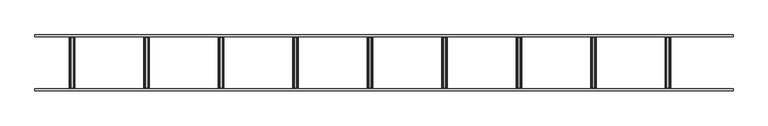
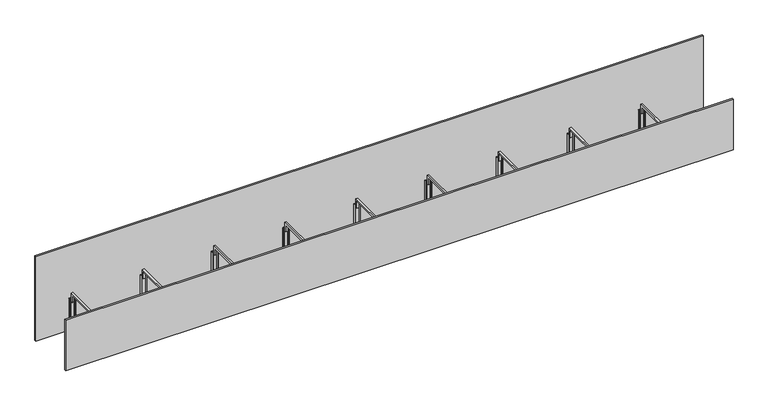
"""IFC4 building model written with IfcOpenShell, lengths in millimetres: proxy geometry, Betobeam ABE : -."""

from ifc_helpers import new_model, si_unit, frame, origin, origin_with_axes, place, context, project, spatial, polyline, outline, extrude, faceted_brep, source, transform, mapped, element, save


def generic_models_a81ae250(model_context):
    return source(origin(), model_context, "Body", "SolidModel", [
        extrude(outline(polyline([(285.0, 220.0), (285.0, 170.0), (275.0, 170.0), (275.0, 210.0), (25.0, 210.0), (25.0, 170.0), (15.0, 170.0), (15.0, 220.0), (285.0, 220.0)])), frame((3395.0, 0.0, 0.0), z_axis=(1.0, 0.0, 0.0), x_axis=(0.0, 1.0, 0.0)), (0.0, 0.0, 1.0), 10.0),
        faceted_brep([(3385.0, 290.0, 190.0), (3385.0, 275.0, 190.0), (3387.0, 275.0, 190.0), (3387.0, 288.0, 190.0), (3413.0, 288.0, 190.0), (3413.0, 275.0, 190.0), (3415.0, 275.0, 190.0), (3415.0, 290.0, 190.0), (3385.0, 290.0, 0.0), (3385.0, 10.0, 0.0), (3385.0, 10.0, 190.0), (3385.0, 25.0, 190.0), (3385.0, 25.0, 15.0), (3385.0, 275.0, 15.0), (3387.0, 275.0, 15.0), (3387.0, 25.0, 15.0), (3387.0, 25.0, 190.0), (3387.0, 12.0, 190.0), (3387.0, 12.0, 2.0), (3387.0, 288.0, 2.0), (3413.0, 288.0, 2.0), (3413.0, 12.0, 2.0), (3413.0, 12.0, 190.0), (3413.0, 25.0, 190.0), (3413.0, 25.0, 15.0), (3413.0, 275.0, 15.0), (3415.0, 275.0, 15.0), (3415.0, 25.0, 15.0), (3415.0, 25.0, 190.0), (3415.0, 10.0, 190.0), (3415.0, 10.0, 0.0), (3415.0, 290.0, 0.0)], [[[0, 1, 2, 3, 4, 5, 6, 7]], [[1, 0, 8, 9, 10, 11, 12, 13]], [[2, 1, 13, 14]], [[3, 2, 14, 15, 16, 17, 18, 19]], [[4, 3, 19, 20]], [[5, 4, 20, 21, 22, 23, 24, 25]], [[6, 5, 25, 26]], [[7, 6, 26, 27, 28, 29, 30, 31]], [[0, 7, 31, 8]], [[14, 13, 12, 15]], [[20, 19, 18, 21]], [[26, 25, 24, 27]], [[8, 31, 30, 9]], [[10, 29, 28, 23, 22, 17, 16, 11]], [[15, 12, 11, 16]], [[21, 18, 17, 22]], [[27, 24, 23, 28]], [[9, 30, 29, 10]]]),
        extrude(outline(polyline([(285.0, 220.0), (285.0, 170.0), (275.0, 170.0), (275.0, 210.0), (25.0, 210.0), (25.0, 170.0), (15.0, 170.0), (15.0, 220.0), (285.0, 220.0)])), frame((2995.0, 0.0, 0.0), z_axis=(1.0, 0.0, 0.0), x_axis=(0.0, 1.0, 0.0)), (0.0, 0.0, 1.0), 10.0),
        faceted_brep([(2985.0, 290.0, 190.0), (2985.0, 275.0, 190.0), (2987.0, 275.0, 190.0), (2987.0, 288.0, 190.0), (3013.0, 288.0, 190.0), (3013.0, 275.0, 190.0), (3015.0, 275.0, 190.0), (3015.0, 290.0, 190.0), (2985.0, 290.0, 0.0), (2985.0, 10.0, 0.0), (2985.0, 10.0, 190.0), (2985.0, 25.0, 190.0), (2985.0, 25.0, 15.0), (2985.0, 275.0, 15.0), (2987.0, 275.0, 15.0), (2987.0, 25.0, 15.0), (2987.0, 25.0, 190.0), (2987.0, 12.0, 190.0), (2987.0, 12.0, 2.0), (2987.0, 288.0, 2.0), (3013.0, 288.0, 2.0), (3013.0, 12.0, 2.0), (3013.0, 12.0, 190.0), (3013.0, 25.0, 190.0), (3013.0, 25.0, 15.0), (3013.0, 275.0, 15.0), (3015.0, 275.0, 15.0), (3015.0, 25.0, 15.0), (3015.0, 25.0, 190.0), (3015.0, 10.0, 190.0), (3015.0, 10.0, 0.0), (3015.0, 290.0, 0.0)], [[[0, 1, 2, 3, 4, 5, 6, 7]], [[1, 0, 8, 9, 10, 11, 12, 13]], [[2, 1, 13, 14]], [[3, 2, 14, 15, 16, 17, 18, 19]], [[4, 3, 19, 20]], [[5, 4, 20, 21, 22, 23, 24, 25]], [[6, 5, 25, 26]], [[7, 6, 26, 27, 28, 29, 30, 31]], [[0, 7, 31, 8]], [[14, 13, 12, 15]], [[20, 19, 18, 21]], [[26, 25, 24, 27]], [[8, 31, 30, 9]], [[10, 29, 28, 23, 22, 17, 16, 11]], [[15, 12, 11, 16]], [[21, 18, 17, 22]], [[27, 24, 23, 28]], [[9, 30, 29, 10]]]),
        extrude(outline(polyline([(285.0, 220.0), (285.0, 170.0), (275.0, 170.0), (275.0, 210.0), (25.0, 210.0), (25.0, 170.0), (15.0, 170.0), (15.0, 220.0), (285.0, 220.0)])), frame((2595.0, 0.0, 0.0), z_axis=(1.0, 0.0, 0.0), x_axis=(0.0, 1.0, 0.0)), (0.0, 0.0, 1.0), 10.0),
        faceted_brep([(2585.0, 290.0, 190.0), (2585.0, 275.0, 190.0), (2587.0, 275.0, 190.0), (2587.0, 288.0, 190.0), (2613.0, 288.0, 190.0), (2613.0, 275.0, 190.0), (2615.0, 275.0, 190.0), (2615.0, 290.0, 190.0), (2585.0, 290.0, 0.0), (2585.0, 10.0, 0.0), (2585.0, 10.0, 190.0), (2585.0, 25.0, 190.0), (2585.0, 25.0, 15.0), (2585.0, 275.0, 15.0), (2587.0, 275.0, 15.0), (2587.0, 25.0, 15.0), (2587.0, 25.0, 190.0), (2587.0, 12.0, 190.0), (2587.0, 12.0, 2.0), (2587.0, 288.0, 2.0), (2613.0, 288.0, 2.0), (2613.0, 12.0, 2.0), (2613.0, 12.0, 190.0), (2613.0, 25.0, 190.0), (2613.0, 25.0, 15.0), (2613.0, 275.0, 15.0), (2615.0, 275.0, 15.0), (2615.0, 25.0, 15.0), (2615.0, 25.0, 190.0), (2615.0, 10.0, 190.0), (2615.0, 10.0, 0.0), (2615.0, 290.0, 0.0)], [[[0, 1, 2, 3, 4, 5, 6, 7]], [[1, 0, 8, 9, 10, 11, 12, 13]], [[2, 1, 13, 14]], [[3, 2, 14, 15, 16, 17, 18, 19]], [[4, 3, 19, 20]], [[5, 4, 20, 21, 22, 23, 24, 25]], [[6, 5, 25, 26]], [[7, 6, 26, 27, 28, 29, 30, 31]], [[0, 7, 31, 8]], [[14, 13, 12, 15]], [[20, 19, 18, 21]], [[26, 25, 24, 27]], [[8, 31, 30, 9]], [[10, 29, 28, 23, 22, 17, 16, 11]], [[15, 12, 11, 16]], [[21, 18, 17, 22]], [[27, 24, 23, 28]], [[9, 30, 29, 10]]]),
        extrude(outline(polyline([(285.0, 220.0), (285.0, 170.0), (275.0, 170.0), (275.0, 210.0), (25.0, 210.0), (25.0, 170.0), (15.0, 170.0), (15.0, 220.0), (285.0, 220.0)])), frame((2195.0, 0.0, 0.0), z_axis=(1.0, 0.0, 0.0), x_axis=(0.0, 1.0, 0.0)), (0.0, 0.0, 1.0), 10.0),
        faceted_brep([(2185.0, 290.0, 190.0), (2185.0, 275.0, 190.0), (2187.0, 275.0, 190.0), (2187.0, 288.0, 190.0), (2213.0, 288.0, 190.0), (2213.0, 275.0, 190.0), (2215.0, 275.0, 190.0), (2215.0, 290.0, 190.0), (2185.0, 290.0, 0.0), (2185.0, 10.0, 0.0), (2185.0, 10.0, 190.0), (2185.0, 25.0, 190.0), (2185.0, 25.0, 15.0), (2185.0, 275.0, 15.0), (2187.0, 275.0, 15.0), (2187.0, 25.0, 15.0), (2187.0, 25.0, 190.0), (2187.0, 12.0, 190.0), (2187.0, 12.0, 2.0), (2187.0, 288.0, 2.0), (2213.0, 288.0, 2.0), (2213.0, 12.0, 2.0), (2213.0, 12.0, 190.0), (2213.0, 25.0, 190.0), (2213.0, 25.0, 15.0), (2213.0, 275.0, 15.0), (2215.0, 275.0, 15.0), (2215.0, 25.0, 15.0), (2215.0, 25.0, 190.0), (2215.0, 10.0, 190.0), (2215.0, 10.0, 0.0), (2215.0, 290.0, 0.0)], [[[0, 1, 2, 3, 4, 5, 6, 7]], [[1, 0, 8, 9, 10, 11, 12, 13]], [[2, 1, 13, 14]], [[3, 2, 14, 15, 16, 17, 18, 19]], [[4, 3, 19, 20]], [[5, 4, 20, 21, 22, 23, 24, 25]], [[6, 5, 25, 26]], [[7, 6, 26, 27, 28, 29, 30, 31]], [[0, 7, 31, 8]], [[14, 13, 12, 15]], [[20, 19, 18, 21]], [[26, 25, 24, 27]], [[8, 31, 30, 9]], [[10, 29, 28, 23, 22, 17, 16, 11]], [[15, 12, 11, 16]], [[21, 18, 17, 22]], [[27, 24, 23, 28]], [[9, 30, 29, 10]]]),
        extrude(outline(polyline([(285.0, 220.0), (285.0, 170.0), (275.0, 170.0), (275.0, 210.0), (25.0, 210.0), (25.0, 170.0), (15.0, 170.0), (15.0, 220.0), (285.0, 220.0)])), frame((1795.0, 0.0, 0.0), z_axis=(1.0, 0.0, 0.0), x_axis=(0.0, 1.0, 0.0)), (0.0, 0.0, 1.0), 10.0),
        faceted_brep([(1785.0, 290.0, 190.0), (1785.0, 275.0, 190.0), (1787.0, 275.0, 190.0), (1787.0, 288.0, 190.0), (1813.0, 288.0, 190.0), (1813.0, 275.0, 190.0), (1815.0, 275.0, 190.0), (1815.0, 290.0, 190.0), (1785.0, 290.0, 0.0), (1785.0, 10.0, 0.0), (1785.0, 10.0, 190.0), (1785.0, 25.0, 190.0), (1785.0, 25.0, 15.0), (1785.0, 275.0, 15.0), (1787.0, 275.0, 15.0), (1787.0, 25.0, 15.0), (1787.0, 25.0, 190.0), (1787.0, 12.0, 190.0), (1787.0, 12.0, 2.0), (1787.0, 288.0, 2.0), (1813.0, 288.0, 2.0), (1813.0, 12.0, 2.0), (1813.0, 12.0, 190.0), (1813.0, 25.0, 190.0), (1813.0, 25.0, 15.0), (1813.0, 275.0, 15.0), (1815.0, 275.0, 15.0), (1815.0, 25.0, 15.0), (1815.0, 25.0, 190.0), (1815.0, 10.0, 190.0), (1815.0, 10.0, 0.0), (1815.0, 290.0, 0.0)], [[[0, 1, 2, 3, 4, 5, 6, 7]], [[1, 0, 8, 9, 10, 11, 12, 13]], [[2, 1, 13, 14]], [[3, 2, 14, 15, 16, 17, 18, 19]], [[4, 3, 19, 20]], [[5, 4, 20, 21, 22, 23, 24, 25]], [[6, 5, 25, 26]], [[7, 6, 26, 27, 28, 29, 30, 31]], [[0, 7, 31, 8]], [[14, 13, 12, 15]], [[20, 19, 18, 21]], [[26, 25, 24, 27]], [[8, 31, 30, 9]], [[10, 29, 28, 23, 22, 17, 16, 11]], [[15, 12, 11, 16]], [[21, 18, 17, 22]], [[27, 24, 23, 28]], [[9, 30, 29, 10]]]),
        extrude(outline(polyline([(285.0, 220.0), (285.0, 170.0), (275.0, 170.0), (275.0, 210.0), (25.0, 210.0), (25.0, 170.0), (15.0, 170.0), (15.0, 220.0), (285.0, 220.0)])), frame((1395.0, 0.0, 0.0), z_axis=(1.0, 0.0, 0.0), x_axis=(0.0, 1.0, 0.0)), (0.0, 0.0, 1.0), 10.0),
        faceted_brep([(1385.0, 290.0, 190.0), (1385.0, 275.0, 190.0), (1387.0, 275.0, 190.0), (1387.0, 288.0, 190.0), (1413.0, 288.0, 190.0), (1413.0, 275.0, 190.0), (1415.0, 275.0, 190.0), (1415.0, 290.0, 190.0), (1385.0, 290.0, 0.0), (1385.0, 10.0, 0.0), (1385.0, 10.0, 190.0), (1385.0, 25.0, 190.0), (1385.0, 25.0, 15.0), (1385.0, 275.0, 15.0), (1387.0, 275.0, 15.0), (1387.0, 25.0, 15.0), (1387.0, 25.0, 190.0), (1387.0, 12.0, 190.0), (1387.0, 12.0, 2.0), (1387.0, 288.0, 2.0), (1413.0, 288.0, 2.0), (1413.0, 12.0, 2.0), (1413.0, 12.0, 190.0), (1413.0, 25.0, 190.0), (1413.0, 25.0, 15.0), (1413.0, 275.0, 15.0), (1415.0, 275.0, 15.0), (1415.0, 25.0, 15.0), (1415.0, 25.0, 190.0), (1415.0, 10.0, 190.0), (1415.0, 10.0, 0.0), (1415.0, 290.0, 0.0)], [[[0, 1, 2, 3, 4, 5, 6, 7]], [[1, 0, 8, 9, 10, 11, 12, 13]], [[2, 1, 13, 14]], [[3, 2, 14, 15, 16, 17, 18, 19]], [[4, 3, 19, 20]], [[5, 4, 20, 21, 22, 23, 24, 25]], [[6, 5, 25, 26]], [[7, 6, 26, 27, 28, 29, 30, 31]], [[0, 7, 31, 8]], [[14, 13, 12, 15]], [[20, 19, 18, 21]], [[26, 25, 24, 27]], [[8, 31, 30, 9]], [[10, 29, 28, 23, 22, 17, 16, 11]], [[15, 12, 11, 16]], [[21, 18, 17, 22]], [[27, 24, 23, 28]], [[9, 30, 29, 10]]]),
        extrude(outline(polyline([(285.0, 220.0), (285.0, 170.0), (275.0, 170.0), (275.0, 210.0), (25.0, 210.0), (25.0, 170.0), (15.0, 170.0), (15.0, 220.0), (285.0, 220.0)])), frame((995.0, 0.0, 0.0), z_axis=(1.0, 0.0, 0.0), x_axis=(0.0, 1.0, 0.0)), (0.0, 0.0, 1.0), 10.0),
        faceted_brep([(985.0, 290.0, 190.0), (985.0, 275.0, 190.0), (987.0, 275.0, 190.0), (987.0, 288.0, 190.0), (1013.0, 288.0, 190.0), (1013.0, 275.0, 190.0), (1015.0, 275.0, 190.0), (1015.0, 290.0, 190.0), (985.0, 290.0, 0.0), (985.0, 10.0, 0.0), (985.0, 10.0, 190.0), (985.0, 25.0, 190.0), (985.0, 25.0, 15.0), (985.0, 275.0, 15.0), (987.0, 275.0, 15.0), (987.0, 25.0, 15.0), (987.0, 25.0, 190.0), (987.0, 12.0, 190.0), (987.0, 12.0, 2.0), (987.0, 288.0, 2.0), (1013.0, 288.0, 2.0), (1013.0, 12.0, 2.0), (1013.0, 12.0, 190.0), (1013.0, 25.0, 190.0), (1013.0, 25.0, 15.0), (1013.0, 275.0, 15.0), (1015.0, 275.0, 15.0), (1015.0, 25.0, 15.0), (1015.0, 25.0, 190.0), (1015.0, 10.0, 190.0), (1015.0, 10.0, 0.0), (1015.0, 290.0, 0.0)], [[[0, 1, 2, 3, 4, 5, 6, 7]], [[1, 0, 8, 9, 10, 11, 12, 13]], [[2, 1, 13, 14]], [[3, 2, 14, 15, 16, 17, 18, 19]], [[4, 3, 19, 20]], [[5, 4, 20, 21, 22, 23, 24, 25]], [[6, 5, 25, 26]], [[7, 6, 26, 27, 28, 29, 30, 31]], [[0, 7, 31, 8]], [[14, 13, 12, 15]], [[20, 19, 18, 21]], [[26, 25, 24, 27]], [[8, 31, 30, 9]], [[10, 29, 28, 23, 22, 17, 16, 11]], [[15, 12, 11, 16]], [[21, 18, 17, 22]], [[27, 24, 23, 28]], [[9, 30, 29, 10]]]),
        extrude(outline(polyline([(285.0, 220.0), (285.0, 170.0), (275.0, 170.0), (275.0, 210.0), (25.0, 210.0), (25.0, 170.0), (15.0, 170.0), (15.0, 220.0), (285.0, 220.0)])), frame((595.0, 0.0, 0.0), z_axis=(1.0, 0.0, 0.0), x_axis=(0.0, 1.0, 0.0)), (0.0, 0.0, 1.0), 10.0),
        faceted_brep([(585.0, 290.0, 190.0), (585.0, 275.0, 190.0), (587.0, 275.0, 190.0), (587.0, 288.0, 190.0), (613.0, 288.0, 190.0), (613.0, 275.0, 190.0), (615.0, 275.0, 190.0), (615.0, 290.0, 190.0), (585.0, 290.0, 0.0), (585.0, 10.0, 0.0), (585.0, 10.0, 190.0), (585.0, 25.0, 190.0), (585.0, 25.0, 15.0), (585.0, 275.0, 15.0), (587.0, 275.0, 15.0), (587.0, 25.0, 15.0), (587.0, 25.0, 190.0), (587.0, 12.0, 190.0), (587.0, 12.0, 2.0), (587.0, 288.0, 2.0), (613.0, 288.0, 2.0), (613.0, 12.0, 2.0), (613.0, 12.0, 190.0), (613.0, 25.0, 190.0), (613.0, 25.0, 15.0), (613.0, 275.0, 15.0), (615.0, 275.0, 15.0), (615.0, 25.0, 15.0), (615.0, 25.0, 190.0), (615.0, 10.0, 190.0), (615.0, 10.0, 0.0), (615.0, 290.0, 0.0)], [[[0, 1, 2, 3, 4, 5, 6, 7]], [[1, 0, 8, 9, 10, 11, 12, 13]], [[2, 1, 13, 14]], [[3, 2, 14, 15, 16, 17, 18, 19]], [[4, 3, 19, 20]], [[5, 4, 20, 21, 22, 23, 24, 25]], [[6, 5, 25, 26]], [[7, 6, 26, 27, 28, 29, 30, 31]], [[0, 7, 31, 8]], [[14, 13, 12, 15]], [[20, 19, 18, 21]], [[26, 25, 24, 27]], [[8, 31, 30, 9]], [[10, 29, 28, 23, 22, 17, 16, 11]], [[15, 12, 11, 16]], [[21, 18, 17, 22]], [[27, 24, 23, 28]], [[9, 30, 29, 10]]]),
        extrude(outline(polyline([(285.0, 220.0), (285.0, 170.0), (275.0, 170.0), (275.0, 210.0), (25.0, 210.0), (25.0, 170.0), (15.0, 170.0), (15.0, 220.0), (285.0, 220.0)])), frame((195.0, 0.0, 0.0), z_axis=(1.0, 0.0, 0.0), x_axis=(0.0, 1.0, 0.0)), (0.0, 0.0, 1.0), 10.0),
        faceted_brep([(185.0, 290.0, 190.0), (185.0, 275.0, 190.0), (187.0, 275.0, 190.0), (187.0, 288.0, 190.0), (213.0, 288.0, 190.0), (213.0, 275.0, 190.0), (215.0, 275.0, 190.0), (215.0, 290.0, 190.0), (185.0, 290.0, 0.0), (185.0, 10.0, 0.0), (185.0, 10.0, 190.0), (185.0, 25.0, 190.0), (185.0, 25.0, 15.0), (185.0, 275.0, 15.0), (187.0, 275.0, 15.0), (187.0, 25.0, 15.0), (187.0, 25.0, 190.0), (187.0, 12.0, 190.0), (187.0, 12.0, 2.0), (187.0, 288.0, 2.0), (213.0, 288.0, 2.0), (213.0, 12.0, 2.0), (213.0, 12.0, 190.0), (213.0, 25.0, 190.0), (213.0, 25.0, 15.0), (213.0, 275.0, 15.0), (215.0, 275.0, 15.0), (215.0, 25.0, 15.0), (215.0, 25.0, 190.0), (215.0, 10.0, 190.0), (215.0, 10.0, 0.0), (215.0, 290.0, 0.0)], [[[0, 1, 2, 3, 4, 5, 6, 7]], [[1, 0, 8, 9, 10, 11, 12, 13]], [[2, 1, 13, 14]], [[3, 2, 14, 15, 16, 17, 18, 19]], [[4, 3, 19, 20]], [[5, 4, 20, 21, 22, 23, 24, 25]], [[6, 5, 25, 26]], [[7, 6, 26, 27, 28, 29, 30, 31]], [[0, 7, 31, 8]], [[14, 13, 12, 15]], [[20, 19, 18, 21]], [[26, 25, 24, 27]], [[8, 31, 30, 9]], [[10, 29, 28, 23, 22, 17, 16, 11]], [[15, 12, 11, 16]], [[21, 18, 17, 22]], [[27, 24, 23, 28]], [[9, 30, 29, 10]]]),
        extrude(outline(polyline([(3750.0, 300.0), (3750.0, 290.0), (0.0, 290.0), (0.0, 300.0), (3750.0, 300.0)])), origin_with_axes(), (0.0, 0.0, 1.0), 500.0),
        extrude(outline(polyline([(3750.0, 10.0), (3750.0, 0.0), (0.0, 0.0), (0.0, 10.0), (3750.0, 10.0)])), origin_with_axes(), (0.0, 0.0, 1.0), 300.0),
    ])


if __name__ == "__main__":
    model = new_model("IFC4")
    model_context = context("Model", 3, world=origin())
    ifc_project = project(units=[si_unit("LENGTHUNIT", "METRE", prefix="MILLI")], contexts=[model_context])
    site = spatial("IfcSite", under=ifc_project)
    building = spatial("IfcBuilding", under=site)
    placement = place(None, origin())
    generic_models_shape = generic_models_a81ae250(model_context)
    element("IfcBuildingElementProxy", 1, Name="Betobeam ABE : -", ObjectType="Betobeam ABE : -", at=placement, inside=building, context=model_context, shape_type="MappedRepresentation", body=[
        mapped(generic_models_shape, transform((0.0, 0.0, 0.0), x_axis=(1.0, 0.0, 0.0), y_axis=(0.0, 1.0, 0.0), z_axis=(0.0, 0.0, 1.0))),
    ])
    save(model, "model.ifc")
